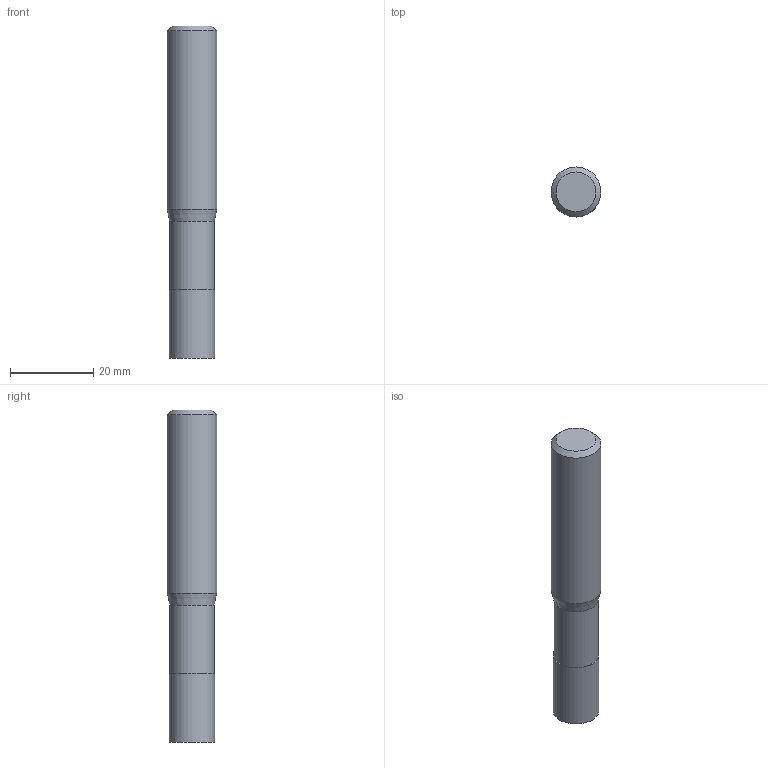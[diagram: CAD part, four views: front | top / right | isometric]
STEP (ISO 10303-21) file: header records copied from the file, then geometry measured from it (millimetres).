
FILE_DESCRIPTION((''),'2;1');
FILE_NAME('C:\Users\nsx150\AppData\Local\Temp\Mastercam 2021\EUJSUNXURU\TEMP.step','2021-04-22T10:35:43',(''),(''),'STEP Write','Mastercam 2021 ... CNC Software, Inc.','');
FILE_SCHEMA(('AUTOMOTIVE_DESIGN'));
Length unit declared in the file: millimetre
Products named in the file (1): None
Bounding box: 12 x 12 x 80 mm (x, y, z)
Volume: 8339 mm3; surface area: 3265.2 mm2
Topology: 2 solids, 2 shells, 9 faces, 12 edges, 7 vertices
Faces by surface type: plane 4, cylinder 3, cone 2
Full cylindrical faces by diameter (mm): 10.8 x1, 11 x1, 12 x1
Entity records: 211 total; most frequent: DIRECTION 36, CARTESIAN_POINT 25, AXIS2_PLACEMENT_3D 18, ORIENTED_EDGE 14, EDGE_LOOP 14, STYLED_ITEM 12, ADVANCED_FACE 9, FACE_BOUND 8
